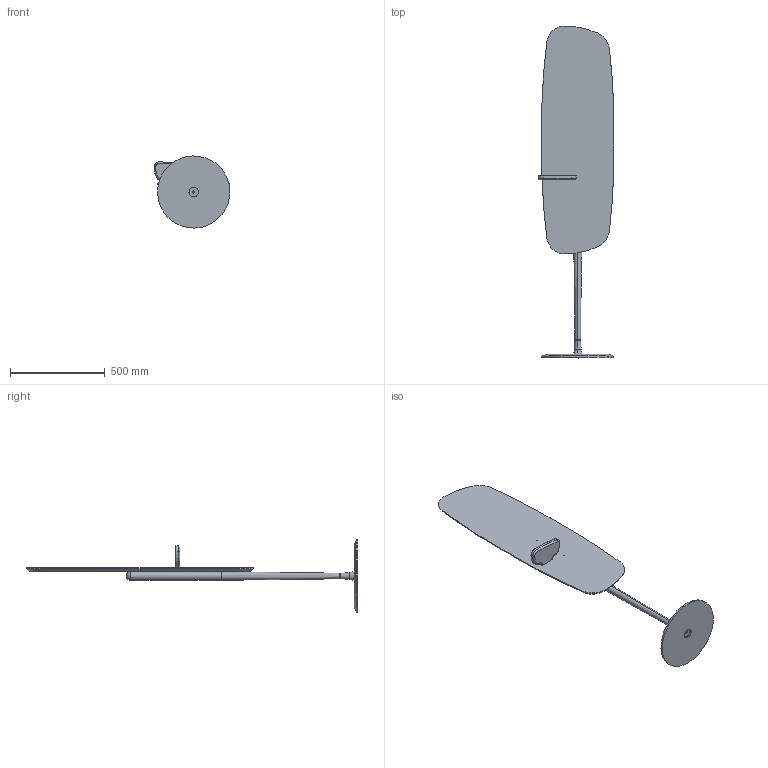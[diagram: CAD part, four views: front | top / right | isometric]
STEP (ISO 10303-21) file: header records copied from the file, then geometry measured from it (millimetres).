
FILE_DESCRIPTION (( 'STEP AP214' ), '1' );
FILE_NAME ('ESPEJO_DE_CUERPO.STEP', '2019-06-06T08:38:55', ( '' ), ( '' ), 'SwSTEP 2.0', 'SolidWorks 2016', '' );
FILE_SCHEMA (( 'AUTOMOTIVE_DESIGN' ));
Length unit declared in the file: millimetre
Products named in the file (7): BANDEJA_MARMOL; BASE_MÁRMOL_Ø38CM; ESPEJO_DE_CUERPO; ESPEJO; TOPE BANDEJA; PALO_BASE_2; TRASERA_DM_ESPEJO
Assembly tree (7 placements, depth 2):
  ESPEJO_DE_CUERPO
    TRASERA_DM_ESPEJO
    BANDEJA_MARMOL
    PALO_BASE_2
    BASE_MÁRMOL_Ø38CM
    ESPEJO
    TOPE BANDEJA  x2
Bounding box: 399.59 x 1747.5 x 379.82 mm (x, y, z)
Volume: 11905796.5 mm3; surface area: 2149004.1 mm2
Topology: 7 solids, 7 shells, 186 faces, 447 edges, 281 vertices
Faces by surface type: cylinder 89, torus 47, plane 30, cone 18, sphere 2
Entity records: 5925 total; most frequent: CARTESIAN_POINT 1198, DIRECTION 1075, ORIENTED_EDGE 862, AXIS2_PLACEMENT_3D 476, EDGE_CURVE 431, CIRCLE 286, VERTEX_POINT 271, EDGE_LOOP 210
